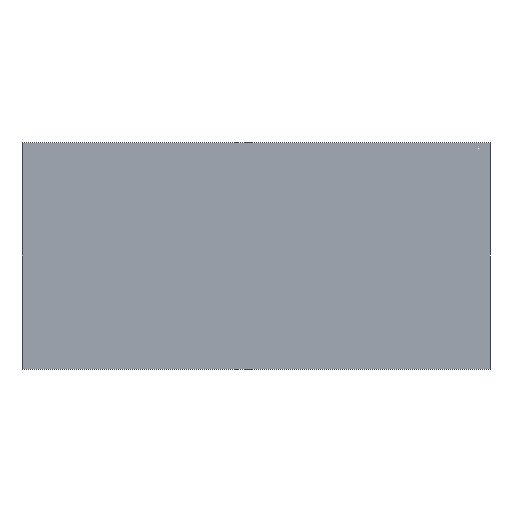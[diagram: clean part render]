
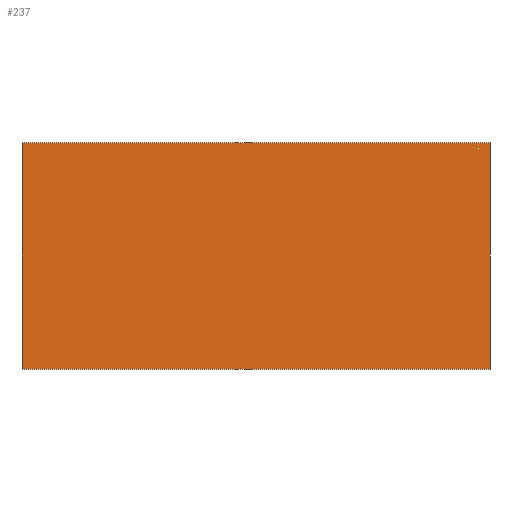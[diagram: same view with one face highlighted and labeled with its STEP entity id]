
A CAD part, front view. The second image highlights one B-rep face of the part: STEP entity #237.
In plain terms, the highlighted planar face has unit normal (0, -1, 0).
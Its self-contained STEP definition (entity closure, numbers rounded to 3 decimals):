
#21 = EDGE_CURVE('',#22,#24,#26,.T.);
#22 = VERTEX_POINT('',#23);
#23 = CARTESIAN_POINT('',(-89.,-215.,58.));
#24 = VERTEX_POINT('',#25);
#25 = CARTESIAN_POINT('',(-89.,-215.,144.));
#26 = SURFACE_CURVE('',#27,(#31,#43),.PCURVE_S1.);
#27 = LINE('',#28,#29);
#28 = CARTESIAN_POINT('',(-89.,-215.,58.));
#29 = VECTOR('',#30,1.);
#30 = DIRECTION('',(0.,0.,1.));
#31 = PCURVE('',#32,#37);
#32 = PLANE('',#33);
#33 = AXIS2_PLACEMENT_3D('',#34,#35,#36);
#34 = CARTESIAN_POINT('',(-89.,-215.,58.));
#35 = DIRECTION('',(1.,0.,0.));
#36 = DIRECTION('',(0.,0.,1.));
#37 = DEFINITIONAL_REPRESENTATION('',(#38),#42);
#38 = LINE('',#39,#40);
#39 = CARTESIAN_POINT('',(0.,0.));
#40 = VECTOR('',#41,1.);
#41 = DIRECTION('',(1.,0.));
#42 = ( GEOMETRIC_REPRESENTATION_CONTEXT(2) 
PARAMETRIC_REPRESENTATION_CONTEXT() REPRESENTATION_CONTEXT('2D SPACE',''
  ) );
#43 = PCURVE('',#44,#49);
#44 = PLANE('',#45);
#45 = AXIS2_PLACEMENT_3D('',#46,#47,#48);
#46 = CARTESIAN_POINT('',(-89.,-215.,58.));
#47 = DIRECTION('',(0.,1.,0.));
#48 = DIRECTION('',(0.,0.,1.));
#49 = DEFINITIONAL_REPRESENTATION('',(#50),#54);
#50 = LINE('',#51,#52);
#51 = CARTESIAN_POINT('',(0.,0.));
#52 = VECTOR('',#53,1.);
#53 = DIRECTION('',(1.,0.));
#54 = ( GEOMETRIC_REPRESENTATION_CONTEXT(2) 
PARAMETRIC_REPRESENTATION_CONTEXT() REPRESENTATION_CONTEXT('2D SPACE',''
  ) );
#72 = PLANE('',#73);
#73 = AXIS2_PLACEMENT_3D('',#74,#75,#76);
#74 = CARTESIAN_POINT('',(-89.,-215.,58.));
#75 = DIRECTION('',(0.,0.,1.));
#76 = DIRECTION('',(1.,0.,0.));
#126 = PLANE('',#127);
#127 = AXIS2_PLACEMENT_3D('',#128,#129,#130);
#128 = CARTESIAN_POINT('',(-89.,-215.,144.));
#129 = DIRECTION('',(0.,0.,1.));
#130 = DIRECTION('',(1.,0.,0.));
#141 = EDGE_CURVE('',#142,#144,#146,.T.);
#142 = VERTEX_POINT('',#143);
#143 = CARTESIAN_POINT('',(89.,-215.,58.));
#144 = VERTEX_POINT('',#145);
#145 = CARTESIAN_POINT('',(89.,-215.,144.));
#146 = SURFACE_CURVE('',#147,(#151,#163),.PCURVE_S1.);
#147 = LINE('',#148,#149);
#148 = CARTESIAN_POINT('',(89.,-215.,58.));
#149 = VECTOR('',#150,1.);
#150 = DIRECTION('',(0.,0.,1.));
#151 = PCURVE('',#152,#157);
#152 = PLANE('',#153);
#153 = AXIS2_PLACEMENT_3D('',#154,#155,#156);
#154 = CARTESIAN_POINT('',(89.,-215.,58.));
#155 = DIRECTION('',(1.,0.,0.));
#156 = DIRECTION('',(0.,0.,1.));
#157 = DEFINITIONAL_REPRESENTATION('',(#158),#162);
#158 = LINE('',#159,#160);
#159 = CARTESIAN_POINT('',(0.,0.));
#160 = VECTOR('',#161,1.);
#161 = DIRECTION('',(1.,0.));
#162 = ( GEOMETRIC_REPRESENTATION_CONTEXT(2) 
PARAMETRIC_REPRESENTATION_CONTEXT() REPRESENTATION_CONTEXT('2D SPACE',''
  ) );
#163 = PCURVE('',#44,#164);
#164 = DEFINITIONAL_REPRESENTATION('',(#165),#169);
#165 = LINE('',#166,#167);
#166 = CARTESIAN_POINT('',(0.,178.));
#167 = VECTOR('',#168,1.);
#168 = DIRECTION('',(1.,0.));
#169 = ( GEOMETRIC_REPRESENTATION_CONTEXT(2) 
PARAMETRIC_REPRESENTATION_CONTEXT() REPRESENTATION_CONTEXT('2D SPACE',''
  ) );
#237 = ADVANCED_FACE('',(#238),#44,.F.);
#238 = FACE_BOUND('',#239,.F.);
#239 = EDGE_LOOP('',(#240,#261,#262,#283));
#240 = ORIENTED_EDGE('',*,*,#241,.F.);
#241 = EDGE_CURVE('',#22,#142,#242,.T.);
#242 = SURFACE_CURVE('',#243,(#247,#254),.PCURVE_S1.);
#243 = LINE('',#244,#245);
#244 = CARTESIAN_POINT('',(-89.,-215.,58.));
#245 = VECTOR('',#246,1.);
#246 = DIRECTION('',(1.,0.,0.));
#247 = PCURVE('',#44,#248);
#248 = DEFINITIONAL_REPRESENTATION('',(#249),#253);
#249 = LINE('',#250,#251);
#250 = CARTESIAN_POINT('',(0.,0.));
#251 = VECTOR('',#252,1.);
#252 = DIRECTION('',(0.,1.));
#253 = ( GEOMETRIC_REPRESENTATION_CONTEXT(2) 
PARAMETRIC_REPRESENTATION_CONTEXT() REPRESENTATION_CONTEXT('2D SPACE',''
  ) );
#254 = PCURVE('',#72,#255);
#255 = DEFINITIONAL_REPRESENTATION('',(#256),#260);
#256 = LINE('',#257,#258);
#257 = CARTESIAN_POINT('',(0.,0.));
#258 = VECTOR('',#259,1.);
#259 = DIRECTION('',(1.,0.));
#260 = ( GEOMETRIC_REPRESENTATION_CONTEXT(2) 
PARAMETRIC_REPRESENTATION_CONTEXT() REPRESENTATION_CONTEXT('2D SPACE',''
  ) );
#261 = ORIENTED_EDGE('',*,*,#21,.T.);
#262 = ORIENTED_EDGE('',*,*,#263,.T.);
#263 = EDGE_CURVE('',#24,#144,#264,.T.);
#264 = SURFACE_CURVE('',#265,(#269,#276),.PCURVE_S1.);
#265 = LINE('',#266,#267);
#266 = CARTESIAN_POINT('',(-89.,-215.,144.));
#267 = VECTOR('',#268,1.);
#268 = DIRECTION('',(1.,0.,0.));
#269 = PCURVE('',#44,#270);
#270 = DEFINITIONAL_REPRESENTATION('',(#271),#275);
#271 = LINE('',#272,#273);
#272 = CARTESIAN_POINT('',(86.,0.));
#273 = VECTOR('',#274,1.);
#274 = DIRECTION('',(0.,1.));
#275 = ( GEOMETRIC_REPRESENTATION_CONTEXT(2) 
PARAMETRIC_REPRESENTATION_CONTEXT() REPRESENTATION_CONTEXT('2D SPACE',''
  ) );
#276 = PCURVE('',#126,#277);
#277 = DEFINITIONAL_REPRESENTATION('',(#278),#282);
#278 = LINE('',#279,#280);
#279 = CARTESIAN_POINT('',(0.,0.));
#280 = VECTOR('',#281,1.);
#281 = DIRECTION('',(1.,0.));
#282 = ( GEOMETRIC_REPRESENTATION_CONTEXT(2) 
PARAMETRIC_REPRESENTATION_CONTEXT() REPRESENTATION_CONTEXT('2D SPACE',''
  ) );
#283 = ORIENTED_EDGE('',*,*,#141,.F.);
